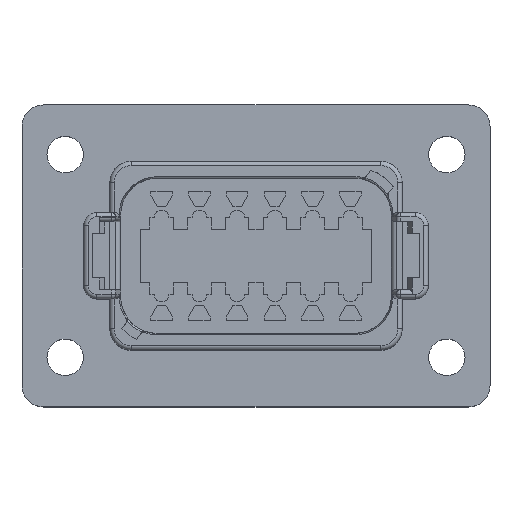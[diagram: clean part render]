
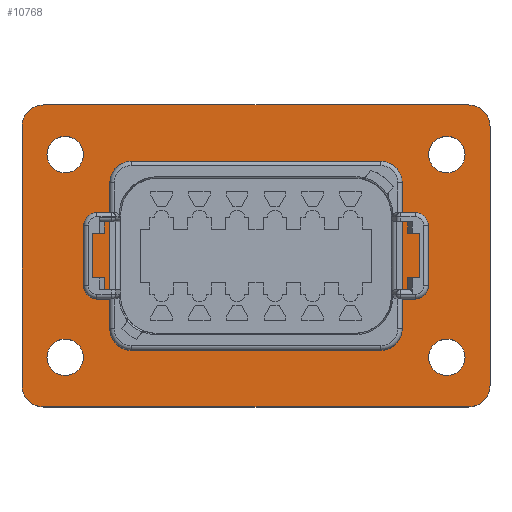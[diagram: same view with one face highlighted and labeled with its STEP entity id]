
A CAD part, top view. The second image highlights one B-rep face of the part: STEP entity #10768.
In plain terms, the highlighted planar face has unit normal (0, 0, 1).
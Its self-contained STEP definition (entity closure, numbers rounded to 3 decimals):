
#766=DIRECTION('',(0.,1.,0.));
#767=VECTOR('',#766,17.17);
#768=CARTESIAN_POINT('',(17.209,-8.585,-17.374));
#769=LINE('',#768,#767);
#798=CARTESIAN_POINT('',(25.019,-15.24,-17.374));
#799=DIRECTION('',(0.,0.,1.));
#800=DIRECTION('',(0.,-1.,0.));
#801=AXIS2_PLACEMENT_3D('',#798,#799,#800);
#803=DIRECTION('',(1.,0.,0.));
#804=VECTOR('',#803,50.038);
#805=CARTESIAN_POINT('',(-25.019,-17.78,-17.374));
#806=LINE('',#805,#804);
#807=CARTESIAN_POINT('',(-25.019,-15.24,-17.374));
#808=DIRECTION('',(0.,0.,1.));
#809=DIRECTION('',(-1.,0.,0.));
#810=AXIS2_PLACEMENT_3D('',#807,#808,#809);
#812=DIRECTION('',(0.,-1.,0.));
#813=VECTOR('',#812,30.48);
#814=CARTESIAN_POINT('',(-27.559,15.24,-17.374));
#815=LINE('',#814,#813);
#816=CARTESIAN_POINT('',(-25.019,15.24,-17.374));
#817=DIRECTION('',(0.,0.,1.));
#818=DIRECTION('',(0.,1.,0.));
#819=AXIS2_PLACEMENT_3D('',#816,#817,#818);
#821=DIRECTION('',(-1.,0.,0.));
#822=VECTOR('',#821,50.038);
#823=CARTESIAN_POINT('',(25.019,17.78,-17.374));
#824=LINE('',#823,#822);
#825=CARTESIAN_POINT('',(25.019,15.24,-17.374));
#826=DIRECTION('',(0.,0.,1.));
#827=DIRECTION('',(1.,0.,0.));
#828=AXIS2_PLACEMENT_3D('',#825,#826,#827);
#830=DIRECTION('',(0.,1.,0.));
#831=VECTOR('',#830,30.48);
#832=CARTESIAN_POINT('',(27.559,-15.24,-17.374));
#833=LINE('',#832,#831);
#834=CARTESIAN_POINT('',(-22.479,-11.938,-17.374));
#835=DIRECTION('',(0.,0.,1.));
#836=DIRECTION('',(-1.,0.,0.));
#837=AXIS2_PLACEMENT_3D('',#834,#835,#836);
#839=CARTESIAN_POINT('',(-22.479,-11.938,-17.374));
#840=DIRECTION('',(0.,0.,1.));
#841=DIRECTION('',(1.,0.,0.));
#842=AXIS2_PLACEMENT_3D('',#839,#840,#841);
#844=CARTESIAN_POINT('',(22.479,-11.938,-17.374));
#845=DIRECTION('',(0.,0.,1.));
#846=DIRECTION('',(-1.,0.,0.));
#847=AXIS2_PLACEMENT_3D('',#844,#845,#846);
#849=CARTESIAN_POINT('',(22.479,-11.938,-17.374));
#850=DIRECTION('',(0.,0.,1.));
#851=DIRECTION('',(1.,0.,0.));
#852=AXIS2_PLACEMENT_3D('',#849,#850,#851);
#854=CARTESIAN_POINT('',(22.479,11.938,-17.374));
#855=DIRECTION('',(0.,0.,1.));
#856=DIRECTION('',(-1.,0.,0.));
#857=AXIS2_PLACEMENT_3D('',#854,#855,#856);
#859=CARTESIAN_POINT('',(22.479,11.938,-17.374));
#860=DIRECTION('',(0.,0.,1.));
#861=DIRECTION('',(1.,0.,0.));
#862=AXIS2_PLACEMENT_3D('',#859,#860,#861);
#864=CARTESIAN_POINT('',(-22.479,11.938,-17.374));
#865=DIRECTION('',(0.,0.,1.));
#866=DIRECTION('',(-1.,0.,0.));
#867=AXIS2_PLACEMENT_3D('',#864,#865,#866);
#869=CARTESIAN_POINT('',(-22.479,11.938,-17.374));
#870=DIRECTION('',(0.,0.,1.));
#871=DIRECTION('',(1.,0.,0.));
#872=AXIS2_PLACEMENT_3D('',#869,#870,#871);
#1022=DIRECTION('',(1.,0.,0.));
#1023=VECTOR('',#1022,29.337);
#1024=CARTESIAN_POINT('',(-14.669,-11.125,-17.374));
#1025=LINE('',#1024,#1023);
#1185=CARTESIAN_POINT('',(-14.669,-8.585,-17.374));
#1186=DIRECTION('',(0.,0.,1.));
#1187=DIRECTION('',(-1.,0.,0.));
#1188=AXIS2_PLACEMENT_3D('',#1185,#1186,#1187);
#1199=DIRECTION('',(0.,-1.,0.));
#1200=VECTOR('',#1199,17.17);
#1201=CARTESIAN_POINT('',(-17.209,8.585,-17.374));
#1202=LINE('',#1201,#1200);
#1235=CARTESIAN_POINT('',(-14.669,8.585,-17.374));
#1236=DIRECTION('',(0.,0.,1.));
#1237=DIRECTION('',(0.,1.,0.));
#1238=AXIS2_PLACEMENT_3D('',#1235,#1236,#1237);
#1249=DIRECTION('',(-1.,0.,0.));
#1250=VECTOR('',#1249,29.337);
#1251=CARTESIAN_POINT('',(14.669,11.125,-17.374));
#1252=LINE('',#1251,#1250);
#1261=CARTESIAN_POINT('',(14.669,8.585,-17.374));
#1262=DIRECTION('',(0.,0.,1.));
#1263=DIRECTION('',(1.,0.,0.));
#1264=AXIS2_PLACEMENT_3D('',#1261,#1262,#1263);
#4783=CARTESIAN_POINT('',(14.669,-8.585,-17.374));
#4784=DIRECTION('',(0.,0.,1.));
#4785=DIRECTION('',(0.,-1.,0.));
#4786=AXIS2_PLACEMENT_3D('',#4783,#4784,#4785);
#9637=CARTESIAN_POINT('',(25.019,-17.78,-17.374));
#9638=CARTESIAN_POINT('',(27.559,-15.24,-17.374));
#9639=VERTEX_POINT('',#9637);
#9640=VERTEX_POINT('',#9638);
#9641=CARTESIAN_POINT('',(27.559,15.24,-17.374));
#9642=VERTEX_POINT('',#9641);
#9643=CARTESIAN_POINT('',(25.019,17.78,-17.374));
#9644=VERTEX_POINT('',#9643);
#9645=CARTESIAN_POINT('',(-25.019,17.78,-17.374));
#9646=VERTEX_POINT('',#9645);
#9647=CARTESIAN_POINT('',(-27.559,15.24,-17.374));
#9648=VERTEX_POINT('',#9647);
#9649=CARTESIAN_POINT('',(-27.559,-15.24,-17.374));
#9650=VERTEX_POINT('',#9649);
#9651=CARTESIAN_POINT('',(-25.019,-17.78,-17.374));
#9652=VERTEX_POINT('',#9651);
#9669=CARTESIAN_POINT('',(-14.669,11.125,-17.374));
#9670=CARTESIAN_POINT('',(-17.209,8.585,-17.374));
#9671=VERTEX_POINT('',#9669);
#9672=VERTEX_POINT('',#9670);
#9673=CARTESIAN_POINT('',(-17.209,-8.585,-17.374));
#9674=VERTEX_POINT('',#9673);
#9675=CARTESIAN_POINT('',(-14.669,-11.125,-17.374));
#9676=VERTEX_POINT('',#9675);
#9677=CARTESIAN_POINT('',(14.669,-11.125,-17.374));
#9678=VERTEX_POINT('',#9677);
#9687=CARTESIAN_POINT('',(17.209,-8.585,-17.374));
#9688=VERTEX_POINT('',#9687);
#9689=CARTESIAN_POINT('',(17.209,8.585,-17.374));
#9690=VERTEX_POINT('',#9689);
#9691=CARTESIAN_POINT('',(14.669,11.125,-17.374));
#9692=VERTEX_POINT('',#9691);
#9705=CARTESIAN_POINT('',(-24.625,-11.938,-17.374));
#9707=VERTEX_POINT('',#9705);
#9709=CARTESIAN_POINT('',(-20.333,-11.938,-17.374));
#9711=VERTEX_POINT('',#9709);
#9713=CARTESIAN_POINT('',(20.333,-11.938,-17.374));
#9715=VERTEX_POINT('',#9713);
#9717=CARTESIAN_POINT('',(24.625,-11.938,-17.374));
#9719=VERTEX_POINT('',#9717);
#9721=CARTESIAN_POINT('',(20.333,11.938,-17.374));
#9723=VERTEX_POINT('',#9721);
#9725=CARTESIAN_POINT('',(24.625,11.938,-17.374));
#9727=VERTEX_POINT('',#9725);
#9729=CARTESIAN_POINT('',(-24.625,11.938,-17.374));
#9731=VERTEX_POINT('',#9729);
#9733=CARTESIAN_POINT('',(-20.333,11.938,-17.374));
#9735=VERTEX_POINT('',#9733);
#10704=CARTESIAN_POINT('',(0.,-5.08,-17.374));
#10705=DIRECTION('',(0.,0.,1.));
#10706=DIRECTION('',(-1.,0.,0.));
#10707=AXIS2_PLACEMENT_3D('',#10704,#10705,#10706);
#10708=PLANE('',#10707);
#10710=ORIENTED_EDGE('',*,*,#10709,.F.);
#10712=ORIENTED_EDGE('',*,*,#10711,.F.);
#10714=ORIENTED_EDGE('',*,*,#10713,.F.);
#10716=ORIENTED_EDGE('',*,*,#10715,.F.);
#10718=ORIENTED_EDGE('',*,*,#10717,.F.);
#10720=ORIENTED_EDGE('',*,*,#10719,.F.);
#10722=ORIENTED_EDGE('',*,*,#10721,.F.);
#10724=ORIENTED_EDGE('',*,*,#10723,.F.);
#10725=EDGE_LOOP('',(#10710,#10712,#10714,#10716,#10718,#10720,#10722,#10724));
#10726=FACE_OUTER_BOUND('',#10725,.F.);
#10728=ORIENTED_EDGE('',*,*,#10727,.T.);
#10730=ORIENTED_EDGE('',*,*,#10729,.T.);
#10732=ORIENTED_EDGE('',*,*,#10731,.T.);
#10734=ORIENTED_EDGE('',*,*,#10733,.T.);
#10736=ORIENTED_EDGE('',*,*,#10735,.T.);
#10737=ORIENTED_EDGE('',*,*,#10675,.T.);
#10739=ORIENTED_EDGE('',*,*,#10738,.T.);
#10741=ORIENTED_EDGE('',*,*,#10740,.T.);
#10742=EDGE_LOOP('',(#10728,#10730,#10732,#10734,#10736,#10737,#10739,#10741));
#10743=FACE_BOUND('',#10742,.F.);
#10745=ORIENTED_EDGE('',*,*,#10744,.T.);
#10747=ORIENTED_EDGE('',*,*,#10746,.T.);
#10748=EDGE_LOOP('',(#10745,#10747));
#10749=FACE_BOUND('',#10748,.F.);
#10751=ORIENTED_EDGE('',*,*,#10750,.T.);
#10753=ORIENTED_EDGE('',*,*,#10752,.T.);
#10754=EDGE_LOOP('',(#10751,#10753));
#10755=FACE_BOUND('',#10754,.F.);
#10757=ORIENTED_EDGE('',*,*,#10756,.T.);
#10759=ORIENTED_EDGE('',*,*,#10758,.T.);
#10760=EDGE_LOOP('',(#10757,#10759));
#10761=FACE_BOUND('',#10760,.F.);
#10763=ORIENTED_EDGE('',*,*,#10762,.T.);
#10765=ORIENTED_EDGE('',*,*,#10764,.T.);
#10766=EDGE_LOOP('',(#10763,#10765));
#10767=FACE_BOUND('',#10766,.F.);
#10768=ADVANCED_FACE('',(#10726,#10743,#10749,#10755,#10761,#10767),#10708,.T.);
#802=CIRCLE('',#801,2.54);
#811=CIRCLE('',#810,2.54);
#820=CIRCLE('',#819,2.54);
#829=CIRCLE('',#828,2.54);
#838=CIRCLE('',#837,2.146);
#843=CIRCLE('',#842,2.146);
#848=CIRCLE('',#847,2.146);
#853=CIRCLE('',#852,2.146);
#858=CIRCLE('',#857,2.146);
#863=CIRCLE('',#862,2.146);
#868=CIRCLE('',#867,2.146);
#873=CIRCLE('',#872,2.146);
#1189=CIRCLE('',#1188,2.54);
#1239=CIRCLE('',#1238,2.54);
#1265=CIRCLE('',#1264,2.54);
#4787=CIRCLE('',#4786,2.54);
#10675=EDGE_CURVE('',#9688,#9690,#769,.T.);
#10709=EDGE_CURVE('',#9639,#9640,#802,.T.);
#10711=EDGE_CURVE('',#9652,#9639,#806,.T.);
#10713=EDGE_CURVE('',#9650,#9652,#811,.T.);
#10715=EDGE_CURVE('',#9648,#9650,#815,.T.);
#10717=EDGE_CURVE('',#9646,#9648,#820,.T.);
#10719=EDGE_CURVE('',#9644,#9646,#824,.T.);
#10721=EDGE_CURVE('',#9642,#9644,#829,.T.);
#10723=EDGE_CURVE('',#9640,#9642,#833,.T.);
#10727=EDGE_CURVE('',#9671,#9672,#1239,.T.);
#10729=EDGE_CURVE('',#9672,#9674,#1202,.T.);
#10731=EDGE_CURVE('',#9674,#9676,#1189,.T.);
#10733=EDGE_CURVE('',#9676,#9678,#1025,.T.);
#10735=EDGE_CURVE('',#9678,#9688,#4787,.T.);
#10738=EDGE_CURVE('',#9690,#9692,#1265,.T.);
#10740=EDGE_CURVE('',#9692,#9671,#1252,.T.);
#10744=EDGE_CURVE('',#9707,#9711,#838,.T.);
#10746=EDGE_CURVE('',#9711,#9707,#843,.T.);
#10750=EDGE_CURVE('',#9715,#9719,#848,.T.);
#10752=EDGE_CURVE('',#9719,#9715,#853,.T.);
#10756=EDGE_CURVE('',#9723,#9727,#858,.T.);
#10758=EDGE_CURVE('',#9727,#9723,#863,.T.);
#10762=EDGE_CURVE('',#9731,#9735,#868,.T.);
#10764=EDGE_CURVE('',#9735,#9731,#873,.T.);
